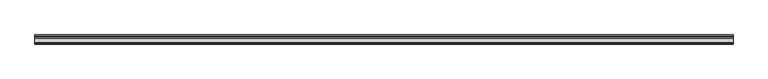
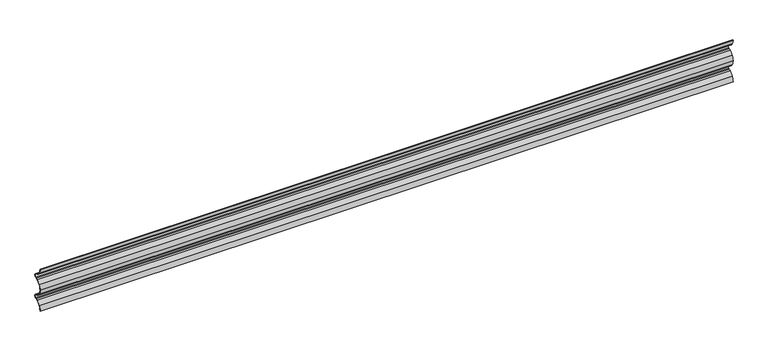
"""IFC4 building model written with IfcOpenShell, lengths in millimetres: plate geometry, Regolare Horizontal 178 : Regolare Horizontal 178."""

from ifc_helpers import new_model, si_unit, point, frame, frame_2d, origin, place, context, project, spatial, polyline, circle_curve, trimmed, segment, composite_curve, outline, extrude, source, transform, mapped, element, save


def plate_61971956(model_context):
    return source(origin(), model_context, "Body", "SweptSolid", [
        extrude(outline(composite_curve([segment(trimmed(circle_curve(frame_2d((32.6206681, 174.5373329)), 30.6166783), [point((6.5021495, 158.562228))], [point((21.2504634, 146.1102431))], True, "CARTESIAN"), True, "CONTINUOUS"), segment(polyline([(21.2504634, 146.1102431), (28.4448583, 143.2286572), (31.9093405, 141.5680324)]), True, "CONTINUOUS"), segment(trimmed(circle_curve(frame_2d((28.0791236, 133.5772336)), 8.8613445), [point((31.9093405, 141.5680324))], [point((31.9093405, 125.5864348))], False, "CARTESIAN"), True, "CONTINUOUS"), segment(polyline([(31.9093405, 125.5864348), (28.4448583, 123.9258101), (21.2504634, 121.0442242)]), True, "CONTINUOUS"), segment(trimmed(circle_curve(frame_2d((32.6206681, 92.6171343)), 30.6166783), [point((21.2504634, 121.0442242))], [point((6.5021495, 108.5922392))], True, "CARTESIAN"), True, "CONTINUOUS"), segment(trimmed(circle_curve(frame_2d((38.4503244, 89.0514891)), 37.4503244), [point((6.5021495, 108.5922392))], [point((1.0, 89.0514891))], True, "CARTESIAN"), True, "CONTINUOUS"), segment(trimmed(circle_curve(frame_2d((38.4503244, 89.0514891)), 37.4503244), [point((1.0, 89.0514891))], [point((6.5021495, 69.5107389))], True, "CARTESIAN"), True, "CONTINUOUS"), segment(trimmed(circle_curve(frame_2d((32.6206681, 85.4858438)), 30.6166783), [point((6.5021495, 69.5107389))], [point((21.2504634, 57.058754))], True, "CARTESIAN"), True, "CONTINUOUS"), segment(polyline([(21.2504634, 57.058754), (28.4448583, 54.1771681), (31.9093405, 52.5165434)]), True, "CONTINUOUS"), segment(trimmed(circle_curve(frame_2d((28.0791236, 44.5257445)), 8.8613445), [point((31.9093405, 52.5165434))], [point((31.9093405, 36.5349457))], False, "CARTESIAN"), True, "CONTINUOUS"), segment(polyline([(31.9093405, 36.5349457), (28.4448583, 34.874321), (21.2504634, 31.9927351)]), True, "CONTINUOUS"), segment(trimmed(circle_curve(frame_2d((32.6206681, 3.5656452)), 30.6166783), [point((21.2504634, 31.9927351))], [point((6.5021495, 19.5407501))], True, "CARTESIAN"), True, "CONTINUOUS"), segment(trimmed(circle_curve(frame_2d((38.4503244, 0.0)), 37.4503244), [point((6.5021495, 19.5407501))], [point((1.0, 0.0))], True, "CARTESIAN"), True, "CONTINUOUS"), segment(polyline([(1.0, 0.0), (0.0, 0.0)]), True, "CONTINUOUS"), segment(trimmed(circle_curve(frame_2d((38.4503244, 0.0)), 38.4503244), [point((0.0, 0.0))], [point((5.6490681, 20.062528))], False, "CARTESIAN"), True, "CONTINUOUS"), segment(trimmed(circle_curve(frame_2d((32.6206681, 3.5656452)), 31.6166783), [point((5.6490681, 20.062528))], [point((20.878867, 32.9211295))], False, "CARTESIAN"), True, "CONTINUOUS"), segment(polyline([(20.878867, 32.9211295), (28.0423924, 35.7903512), (31.4771017, 37.4367049)]), True, "CONTINUOUS"), segment(trimmed(circle_curve(frame_2d((28.0791236, 44.5257445)), 7.8613445), [point((31.4771017, 37.4367049))], [point((31.4771017, 51.6147842))], True, "CARTESIAN"), True, "CONTINUOUS"), segment(polyline([(31.4771017, 51.6147842), (28.0423924, 53.2611379), (20.878867, 56.1303596)]), True, "CONTINUOUS"), segment(trimmed(circle_curve(frame_2d((32.6206681, 85.4858438)), 31.6166783), [point((20.878867, 56.1303596))], [point((5.6490681, 68.9889611))], False, "CARTESIAN"), True, "CONTINUOUS"), segment(trimmed(circle_curve(frame_2d((38.4503244, 89.0514891)), 38.4503244), [point((5.6490681, 68.9889611))], [point((0.0, 89.0514891))], False, "CARTESIAN"), True, "CONTINUOUS"), segment(trimmed(circle_curve(frame_2d((38.4503244, 89.0514891)), 38.4503244), [point((0.0, 89.0514891))], [point((5.6490681, 109.1140171))], False, "CARTESIAN"), True, "CONTINUOUS"), segment(trimmed(circle_curve(frame_2d((32.6206681, 92.6171343)), 31.6166783), [point((5.6490681, 109.1140171))], [point((20.878867, 121.9726185))], False, "CARTESIAN"), True, "CONTINUOUS"), segment(polyline([(20.878867, 121.9726185), (28.0423924, 124.8418403), (31.4771017, 126.488194)]), True, "CONTINUOUS"), segment(trimmed(circle_curve(frame_2d((28.0791236, 133.5772336)), 7.8613445), [point((31.4771017, 126.488194))], [point((31.4771017, 140.6662733))], True, "CARTESIAN"), True, "CONTINUOUS"), segment(polyline([(31.4771017, 140.6662733), (28.0423924, 142.312627), (20.878867, 145.1818487)]), True, "CONTINUOUS"), segment(trimmed(circle_curve(frame_2d((32.6206681, 174.5373329)), 31.6166783), [point((20.878867, 145.1818487))], [point((5.6490681, 158.0404502))], False, "CARTESIAN"), True, "CONTINUOUS"), segment(trimmed(circle_curve(frame_2d((38.4503244, 178.1029782)), 38.4503244), [point((5.6490681, 158.0404502))], [point((0.0, 178.1029782))], False, "CARTESIAN"), True, "CONTINUOUS"), segment(polyline([(0.0, 178.1029782), (1.0, 178.1029782)]), True, "CONTINUOUS"), segment(trimmed(circle_curve(frame_2d((38.4503244, 178.1029782)), 37.4503244), [point((1.0, 178.1029782))], [point((6.5021495, 158.562228))], True, "CARTESIAN"), True, "CONTINUOUS")], self_intersect=False)), frame((-1407.0, 0.0, 0.0), z_axis=(1.0, 0.0, 0.0), x_axis=(0.0, 1.0, 0.0)), (0.0, 0.0, 1.0), 2814.0),
    ])


if __name__ == "__main__":
    model = new_model("IFC4")
    model_context = context("Model", 3, world=origin())
    ifc_project = project(units=[si_unit("LENGTHUNIT", "METRE", prefix="MILLI")], contexts=[model_context])
    site = spatial("IfcSite", under=ifc_project)
    building = spatial("IfcBuilding", under=site)
    placement = place(None, origin())
    plate_shape = plate_61971956(model_context)
    element("IfcPlate", 1, ObjectType="Regolare Horizontal 178 : Regolare Horizontal 178", at=placement, inside=building, context=model_context, shape_type="MappedRepresentation", body=[
        mapped(plate_shape, transform((0.0, 0.0, 0.0), x_axis=(1.0, 0.0, 0.0), y_axis=(0.0, 1.0, 0.0), z_axis=(0.0, 0.0, 1.0))),
    ])
    save(model, "model.ifc")
